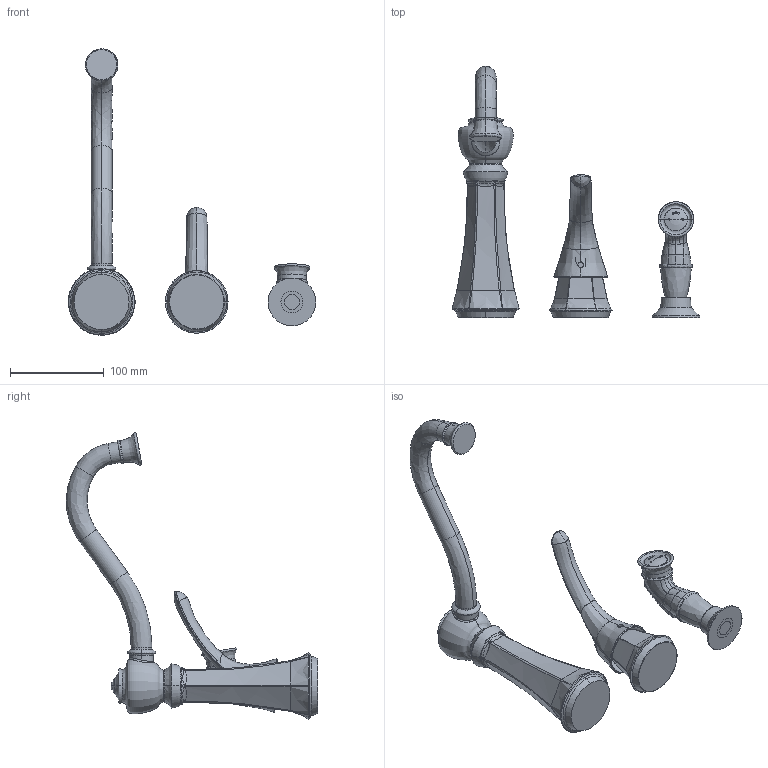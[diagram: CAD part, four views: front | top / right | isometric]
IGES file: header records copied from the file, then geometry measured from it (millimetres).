
Start section:  PTC IGES file: sku_7065.igs
Global section: file name: sku_7065.igs; native system: Pro/ENGINEER by Parametric Technology Corporation; preprocessor: 2006460; author: 9dutterb; organization: Unknown; date: 20071220.094517; units: inch
Bounding box: 264.47 x 268.3 x 305.86 mm (x, y, z)
Surface area: 120586.6 mm2 (no closed solid volume)
Topology: 0 solids, 0 shells, 467 faces, 2282 edges, 2277 vertices
Faces by surface type: bspline 301, revolution 160, extrusion 6
